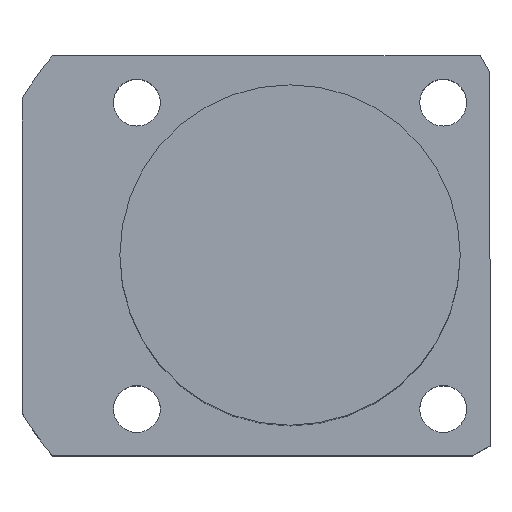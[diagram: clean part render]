
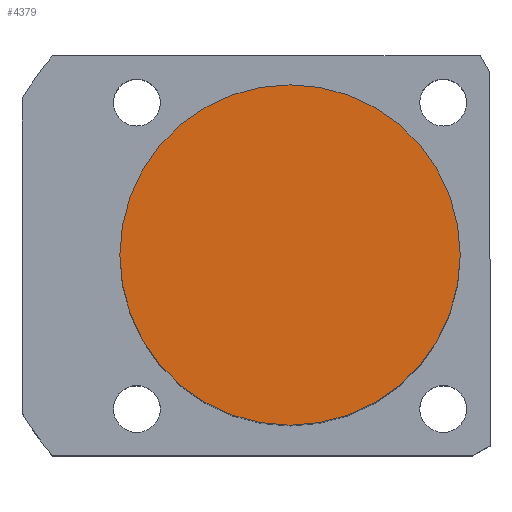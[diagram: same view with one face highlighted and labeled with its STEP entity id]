
A CAD part, top view. The second image highlights one B-rep face of the part: STEP entity #4379.
In plain terms, the highlighted planar face has unit normal (0, 0, 1).
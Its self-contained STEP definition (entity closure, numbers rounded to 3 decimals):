
#391 = EDGE_CURVE ( 'NONE', #3364, #1640, #3342, .T. ) ;
#567 = DIRECTION ( 'NONE',  ( 1., 0., 0. ) ) ;
#845 = CARTESIAN_POINT ( 'NONE',  ( 0., 0., 66.5 ) ) ;
#897 = CARTESIAN_POINT ( 'NONE',  ( 0., 0., 66.5 ) ) ;
#1131 = CARTESIAN_POINT ( 'NONE',  ( -20., 0., 66.5 ) ) ;
#1219 = DIRECTION ( 'NONE',  ( 1., 0., 0. ) ) ;
#1334 = AXIS2_PLACEMENT_3D ( 'NONE', #897, #4078, #567 ) ;
#1515 = DIRECTION ( 'NONE',  ( 0., 0., 1. ) ) ;
#1640 = VERTEX_POINT ( 'NONE', #3600 ) ;
#1654 = FACE_OUTER_BOUND ( 'NONE', #2580, .T. ) ;
#2254 = CIRCLE ( 'NONE', #2295, 20. ) ;
#2295 = AXIS2_PLACEMENT_3D ( 'NONE', #845, #3350, #1219 ) ;
#2580 = EDGE_LOOP ( 'NONE', ( #4417, #4539 ) ) ;
#2929 = PLANE ( 'NONE',  #3026 ) ;
#3026 = AXIS2_PLACEMENT_3D ( 'NONE', #4327, #1515, #3989 ) ;
#3342 = CIRCLE ( 'NONE', #1334, 20. ) ;
#3350 = DIRECTION ( 'NONE',  ( 0., 0., 1. ) ) ;
#3364 = VERTEX_POINT ( 'NONE', #1131 ) ;
#3600 = CARTESIAN_POINT ( 'NONE',  ( 20., 0., 66.5 ) ) ;
#3989 = DIRECTION ( 'NONE',  ( 1., 0., 0. ) ) ;
#4078 = DIRECTION ( 'NONE',  ( 0., 0., 1. ) ) ;
#4327 = CARTESIAN_POINT ( 'NONE',  ( 0., 0., 66.5 ) ) ;
#4379 = ADVANCED_FACE ( 'NONE', ( #1654 ), #2929, .T. ) ;
#4417 = ORIENTED_EDGE ( 'NONE', *, *, #391, .T. ) ;
#4439 = EDGE_CURVE ( 'NONE', #1640, #3364, #2254, .T. ) ;
#4539 = ORIENTED_EDGE ( 'NONE', *, *, #4439, .T. ) ;
